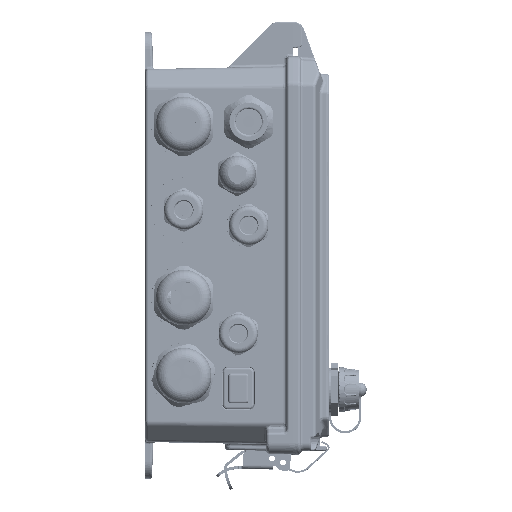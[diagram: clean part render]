
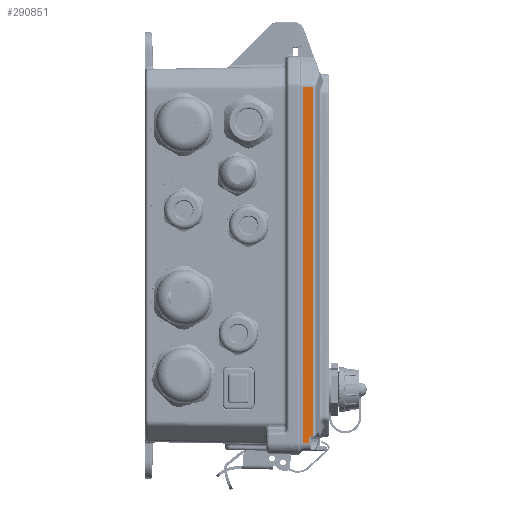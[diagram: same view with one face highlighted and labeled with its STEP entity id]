
A CAD part, top view. The second image highlights one B-rep face of the part: STEP entity #290851.
In plain terms, the highlighted planar face has unit normal (0.026, 0, 1) as drawn and (0, 0.026, -1) by its records, which use the part's own axes.
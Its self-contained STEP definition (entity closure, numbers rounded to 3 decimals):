
#3254 = VECTOR ( 'NONE', #78484, 1000. ) ;
#3544 = CARTESIAN_POINT ( 'NONE',  ( -101.605, 9.009, -83.533 ) ) ;
#5558 = DIRECTION ( 'NONE',  ( -0.063, -0.998, -0.026 ) ) ;
#12348 = CARTESIAN_POINT ( 'NONE',  ( -100.778, 9.864, -83.511 ) ) ;
#27225 = EDGE_LOOP ( 'NONE', ( #162128, #400567, #64002, #348038, #70880, #376879, #198735 ) ) ;
#28022 = CARTESIAN_POINT ( 'NONE',  ( -680.291, 10.788, -83.487 ) ) ;
#31080 = VECTOR ( 'NONE', #148264, 1000. ) ;
#36119 = CARTESIAN_POINT ( 'NONE',  ( -101.647, 8.996, -83.534 ) ) ;
#39325 = DIRECTION ( 'NONE',  ( 1., 0., 0. ) ) ;
#40552 = CARTESIAN_POINT ( 'NONE',  ( -100.786, 9.739, -83.514 ) ) ;
#40761 = CARTESIAN_POINT ( 'NONE',  ( 136.84, 8.924, -83.536 ) ) ;
#42819 = CARTESIAN_POINT ( 'NONE',  ( 93.646, 10.788, -83.487 ) ) ;
#51946 = VERTEX_POINT ( 'NONE', #211540 ) ;
#56543 = LINE ( 'NONE', #28022, #385032 ) ;
#62073 = CARTESIAN_POINT ( 'NONE',  ( -100.778, 9.864, -83.511 ) ) ;
#64002 = ORIENTED_EDGE ( 'NONE', *, *, #179106, .T. ) ;
#67299 = CARTESIAN_POINT ( 'NONE',  ( -101.095, 9.281, -83.526 ) ) ;
#68757 = CARTESIAN_POINT ( 'NONE',  ( -102.062, 8.924, -83.536 ) ) ;
#70880 = ORIENTED_EDGE ( 'NONE', *, *, #89744, .T. ) ;
#71695 = CARTESIAN_POINT ( 'NONE',  ( -101.2, 9.203, -83.528 ) ) ;
#78484 = DIRECTION ( 'NONE',  ( -1., 0., 0. ) ) ;
#82885 = CARTESIAN_POINT ( 'NONE',  ( 136.84, 5.294, -83.631 ) ) ;
#89744 = EDGE_CURVE ( 'NONE', #257065, #330101, #153155, .T. ) ;
#101398 = CARTESIAN_POINT ( 'NONE',  ( -100.928, 9.464, -83.521 ) ) ;
#102880 = CARTESIAN_POINT ( 'NONE',  ( -101.177, 9.22, -83.528 ) ) ;
#105776 = CARTESIAN_POINT ( 'NONE',  ( -101.161, 9.231, -83.527 ) ) ;
#107253 = CARTESIAN_POINT ( 'NONE',  ( -101.733, 8.973, -83.534 ) ) ;
#111636 = CARTESIAN_POINT ( 'NONE',  ( -100.904, 9.5, -83.52 ) ) ;
#145082 = CARTESIAN_POINT ( 'NONE',  ( 93.705, 5.294, -83.631 ) ) ;
#148264 = DIRECTION ( 'NONE',  ( 0.026, 0.999, 0.026 ) ) ;
#153155 = LINE ( 'NONE', #183661, #31080 ) ;
#162128 = ORIENTED_EDGE ( 'NONE', *, *, #345399, .F. ) ;
#162173 = EDGE_CURVE ( 'NONE', #284726, #257065, #209768, .T. ) ;
#166809 = FACE_OUTER_BOUND ( 'NONE', #27225, .T. ) ;
#169439 = CARTESIAN_POINT ( 'NONE',  ( -100.915, 9.482, -83.521 ) ) ;
#171469 = CARTESIAN_POINT ( 'NONE',  ( 93.646, 10.788, -83.487 ) ) ;
#173783 = CARTESIAN_POINT ( 'NONE',  ( -101.575, 9.019, -83.533 ) ) ;
#179106 = EDGE_CURVE ( 'NONE', #428663, #284726, #301629, .T. ) ;
#181757 = LINE ( 'NONE', #307759, #314406 ) ;
#183661 = CARTESIAN_POINT ( 'NONE',  ( -104.46, 5.294, -83.631 ) ) ;
#191967 = AXIS2_PLACEMENT_3D ( 'NONE', #222804, #288072, #360396 ) ;
#196755 = DIRECTION ( 'NONE',  ( -1., 0., 0. ) ) ;
#198735 = ORIENTED_EDGE ( 'NONE', *, *, #430277, .T. ) ;
#203490 = CARTESIAN_POINT ( 'NONE',  ( -100.907, 9.494, -83.521 ) ) ;
#207888 = CARTESIAN_POINT ( 'NONE',  ( -100.958, 9.423, -83.522 ) ) ;
#209768 = LINE ( 'NONE', #82885, #3254 ) ;
#211540 = CARTESIAN_POINT ( 'NONE',  ( -100.72, 10.788, -83.487 ) ) ;
#222804 = CARTESIAN_POINT ( 'NONE',  ( 136.84, 0., -83.769 ) ) ;
#235549 = VECTOR ( 'NONE', #39325, 1000. ) ;
#240535 = CARTESIAN_POINT ( 'NONE',  ( -101.484, 9.05, -83.532 ) ) ;
#257065 = VERTEX_POINT ( 'NONE', #395909 ) ;
#270267 = CARTESIAN_POINT ( 'NONE',  ( -101.907, 8.937, -83.535 ) ) ;
#273016 = LINE ( 'NONE', #40761, #235549 ) ;
#274602 = CARTESIAN_POINT ( 'NONE',  ( -101.373, 9.098, -83.531 ) ) ;
#284726 = VERTEX_POINT ( 'NONE', #387800 ) ;
#284800 = VERTEX_POINT ( 'NONE', #352279 ) ;
#288072 = DIRECTION ( 'NONE',  ( 0., 0.026, -1. ) ) ;
#290851 = ADVANCED_FACE ( 'NONE', ( #166809 ), #356055, .T. ) ;
#295138 = EDGE_CURVE ( 'NONE', #330101, #284800, #273016, .T. ) ;
#301629 = B_SPLINE_CURVE_WITH_KNOTS ( 'NONE', 3,
 ( #42819, #318190, #350762, #145082 ),
 .UNSPECIFIED., .F., .F.,
 ( 4, 4 ),
 ( 0., 1. ),
 .UNSPECIFIED. ) ;
#305707 = CARTESIAN_POINT ( 'NONE',  ( -101.568, 9.021, -83.533 ) ) ;
#307759 = CARTESIAN_POINT ( 'NONE',  ( -100.692, 11.235, -83.475 ) ) ;
#310092 = CARTESIAN_POINT ( 'NONE',  ( -102.168, 8.924, -83.536 ) ) ;
#314406 = VECTOR ( 'NONE', #5558, 1000. ) ;
#317373 = CARTESIAN_POINT ( 'NONE',  ( -100.827, 9.62, -83.517 ) ) ;
#317526 = VERTEX_POINT ( 'NONE', #62073 ) ;
#318190 = CARTESIAN_POINT ( 'NONE',  ( 93.665, 8.957, -83.535 ) ) ;
#323598 = EDGE_CURVE ( 'NONE', #428663, #51946, #56543, .T. ) ;
#330101 = VERTEX_POINT ( 'NONE', #398932 ) ;
#341168 = CARTESIAN_POINT ( 'NONE',  ( -101.587, 9.015, -83.533 ) ) ;
#345399 = EDGE_CURVE ( 'NONE', #51946, #317526, #181757, .T. ) ;
#348038 = ORIENTED_EDGE ( 'NONE', *, *, #162173, .T. ) ;
#350762 = CARTESIAN_POINT ( 'NONE',  ( 93.685, 7.125, -83.583 ) ) ;
#352279 = CARTESIAN_POINT ( 'NONE',  ( -102.168, 8.924, -83.536 ) ) ;
#356055 = PLANE ( 'NONE',  #191967 ) ;
#360396 = DIRECTION ( 'NONE',  ( 0., 1., 0.026 ) ) ;
#376677 = CARTESIAN_POINT ( 'NONE',  ( -101.256, 9.166, -83.529 ) ) ;
#376879 = ORIENTED_EDGE ( 'NONE', *, *, #295138, .T. ) ;
#385032 = VECTOR ( 'NONE', #196755, 1000. ) ;
#387800 = CARTESIAN_POINT ( 'NONE',  ( 93.705, 5.294, -83.631 ) ) ;
#390369 = B_SPLINE_CURVE_WITH_KNOTS ( 'NONE', 3,
 ( #310092, #68757, #270267, #107253, #36119, #3544, #341168, #173783, #305707, #240535, #274602, #376677, #71695, #102880, #105776, #410729, #67299, #406369, #207888, #101398, #169439, #203490, #111636, #317373, #40552, #12348 ),
 .UNSPECIFIED., .F., .F.,
 ( 4, 1, 1, 1, 1, 2, 2, 1, 1, 1, 2, 2, 1, 1, 1, 2, 2, 4 ),
 ( 0., 0.125, 0.187, 0.219, 0.234, 0.242, 0.25, 0.375, 0.437, 0.469, 0.484, 0.5, 0.625, 0.687, 0.719, 0.734, 0.75, 1. ),
 .UNSPECIFIED. ) ;
#395909 = CARTESIAN_POINT ( 'NONE',  ( -104.46, 5.294, -83.631 ) ) ;
#398932 = CARTESIAN_POINT ( 'NONE',  ( -104.365, 8.924, -83.536 ) ) ;
#400567 = ORIENTED_EDGE ( 'NONE', *, *, #323598, .F. ) ;
#406369 = CARTESIAN_POINT ( 'NONE',  ( -101.026, 9.344, -83.525 ) ) ;
#410729 = CARTESIAN_POINT ( 'NONE',  ( -101.153, 9.237, -83.527 ) ) ;
#428663 = VERTEX_POINT ( 'NONE', #171469 ) ;
#430277 = EDGE_CURVE ( 'NONE', #284800, #317526, #390369, .T. ) ;
